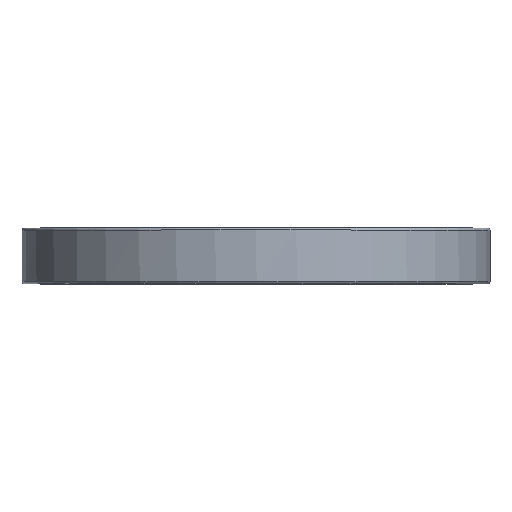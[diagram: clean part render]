
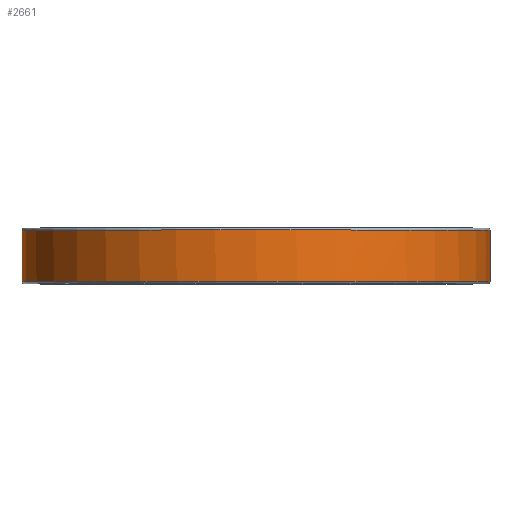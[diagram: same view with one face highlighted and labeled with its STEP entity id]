
A CAD part, top view. The second image highlights one B-rep face of the part: STEP entity #2661.
In plain terms, the highlighted cylindrical face has radius 105 mm (diameter 210 mm), a partial arc.
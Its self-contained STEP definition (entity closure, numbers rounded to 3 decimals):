
#1921=VERTEX_POINT('',#5275);
#2443=VERTEX_POINT('',#5853);
#2579=EDGE_CURVE('',#4369,#3691,#5999,.T.);
#2623=EDGE_CURVE('',#2995,#2443,#6052,.T.);
#2661=ADVANCED_FACE('',(#6092),#6093,.T.);
#2995=VERTEX_POINT('',#6467);
#3249=EDGE_CURVE('',#4931,#1921,#6751,.T.);
#3625=EDGE_CURVE('',#2443,#4931,#7181,.T.);
#3691=VERTEX_POINT('',#7284);
#3859=EDGE_CURVE('',#4369,#1921,#7471,.T.);
#4369=VERTEX_POINT('',#8035);
#4745=EDGE_CURVE('',#3691,#2995,#8457,.T.);
#4931=VERTEX_POINT('',#8655);
#5275=CARTESIAN_POINT('',(105.0,24.0,0.));
#5853=CARTESIAN_POINT('',(-105.0,24.0,0.));
#5999=CIRCLE('',#10041,105.0);
#6052=LINE('',#10111,#10112);
#6092=FACE_OUTER_BOUND('',#10171,.T.);
#6093=CYLINDRICAL_SURFACE('',#10172,105.0);
#6467=CARTESIAN_POINT('',(-105.0,1.0,0.));
#6751=CIRCLE('',#11023,105.0);
#7181=CIRCLE('',#11556,105.0);
#7284=CARTESIAN_POINT('',(-104.998,1.0,0.651));
#7471=LINE('',#11908,#11909);
#8035=CARTESIAN_POINT('',(105.0,1.0,0.));
#8457=CIRCLE('',#13191,105.0);
#8655=CARTESIAN_POINT('',(104.999,24.0,0.458));
#10041=AXIS2_PLACEMENT_3D('',#14782,#14783,#14784);
#10111=CARTESIAN_POINT('',(-105.0,1.0,0.));
#10112=VECTOR('',#14862,23.0);
#10171=EDGE_LOOP('',(#14907,#14908,#14909,#14910,#14911,#14912));
#10172=AXIS2_PLACEMENT_3D('',#14913,#14914,#14915);
#11023=AXIS2_PLACEMENT_3D('',#15797,#15798,#15799);
#11556=AXIS2_PLACEMENT_3D('',#16407,#16408,#16409);
#11908=CARTESIAN_POINT('',(105.0,1.0,0.));
#11909=VECTOR('',#16834,23.0);
#13191=AXIS2_PLACEMENT_3D('',#18026,#18027,#18028);
#14782=CARTESIAN_POINT('',(0.0,1.0,0.0));
#14783=DIRECTION('',(0.0,-1.0,0.0));
#14784=DIRECTION('',(1.0,0.0,0.0));
#14862=DIRECTION('',(0.0,1.0,0.));
#14907=ORIENTED_EDGE('',*,*,#2623,.F.);
#14908=ORIENTED_EDGE('',*,*,#4745,.F.);
#14909=ORIENTED_EDGE('',*,*,#2579,.F.);
#14910=ORIENTED_EDGE('',*,*,#3859,.T.);
#14911=ORIENTED_EDGE('',*,*,#3249,.F.);
#14912=ORIENTED_EDGE('',*,*,#3625,.F.);
#14913=CARTESIAN_POINT('',(0.0,0.0,0.0));
#14914=DIRECTION('',(-0.0,1.0,-0.0));
#14915=DIRECTION('',(1.0,0.0,0.0));
#15797=CARTESIAN_POINT('',(0.0,24.0,0.0));
#15798=DIRECTION('',(0.0,1.0,0.0));
#15799=DIRECTION('',(-1.0,0.0,0.0));
#16407=CARTESIAN_POINT('',(0.0,24.0,0.0));
#16408=DIRECTION('',(0.0,1.0,0.0));
#16409=DIRECTION('',(-1.0,0.0,0.0));
#16834=DIRECTION('',(0.0,1.0,0.));
#18026=CARTESIAN_POINT('',(0.0,1.0,0.0));
#18027=DIRECTION('',(0.0,-1.0,0.0));
#18028=DIRECTION('',(1.0,0.0,0.0));
